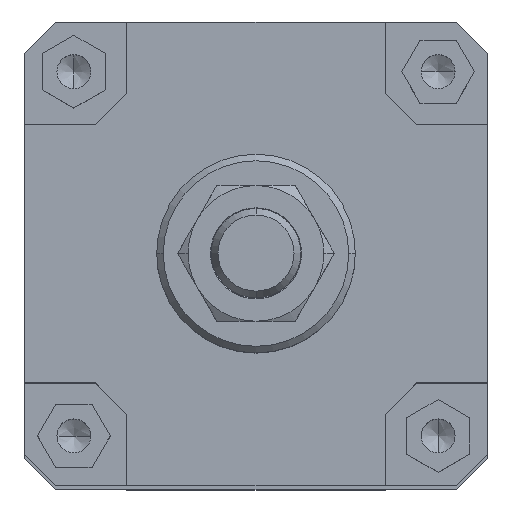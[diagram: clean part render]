
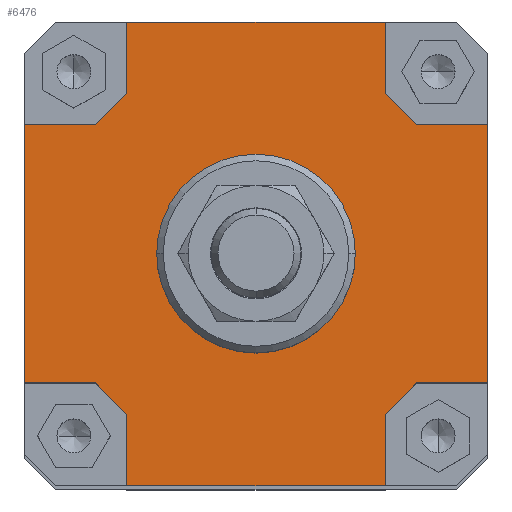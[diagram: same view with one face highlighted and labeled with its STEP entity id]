
A CAD part, top view. The second image highlights one B-rep face of the part: STEP entity #6476.
In plain terms, the highlighted planar face has unit normal (0, 0, 1).
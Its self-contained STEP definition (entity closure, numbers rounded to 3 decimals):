
#2320=CARTESIAN_POINT('',(-30.0,0.,380.0));
#2321=VERTEX_POINT('',#2320);
#2330=CARTESIAN_POINT('',(30.0,0.,380.0));
#2331=VERTEX_POINT('',#2330);
#2332=CARTESIAN_POINT('',(0.0,0.0,380.0));
#2333=DIRECTION('',(0.0,0.0,-1.0));
#2334=DIRECTION('',(-1.0,0.0,0.0));
#2335=AXIS2_PLACEMENT_3D('',#2332,#2333,#2334);
#2336=CIRCLE('',#2335,30.0);
#2337=EDGE_CURVE('',#2331,#2321,#2336,.T.);
#2557=CARTESIAN_POINT('',(0.0,0.0,380.0));
#2558=DIRECTION('',(0.0,0.0,-1.0));
#2559=DIRECTION('',(-1.0,0.0,0.0));
#2560=AXIS2_PLACEMENT_3D('',#2557,#2558,#2559);
#2561=CIRCLE('',#2560,30.0);
#2562=EDGE_CURVE('',#2321,#2331,#2561,.T.);
#2641=CARTESIAN_POINT('',(-39.,70.,380.0));
#2642=VERTEX_POINT('',#2641);
#2649=CARTESIAN_POINT('',(39.,70.,380.0));
#2650=VERTEX_POINT('',#2649);
#2651=CARTESIAN_POINT('',(-39.,70.,380.0));
#2652=DIRECTION('',(1.0,0.0,0.0));
#2653=VECTOR('',#2652,78.);
#2654=LINE('',#2651,#2653);
#2655=EDGE_CURVE('',#2642,#2650,#2654,.T.);
#3100=CARTESIAN_POINT('',(70.,39.,380.0));
#3101=VERTEX_POINT('',#3100);
#3108=CARTESIAN_POINT('',(70.,-39.0,380.0));
#3109=VERTEX_POINT('',#3108);
#3110=CARTESIAN_POINT('',(70.,39.,380.0));
#3111=DIRECTION('',(0.0,-1.0,0.0));
#3112=VECTOR('',#3111,78.);
#3113=LINE('',#3110,#3112);
#3114=EDGE_CURVE('',#3101,#3109,#3113,.T.);
#3181=CARTESIAN_POINT('',(-39.,-48.5,380.0));
#3182=VERTEX_POINT('',#3181);
#3189=CARTESIAN_POINT('',(-48.5,-39.,380.0));
#3190=VERTEX_POINT('',#3189);
#3191=CARTESIAN_POINT('',(-39.,-48.5,380.0));
#3192=DIRECTION('',(-0.707,0.707,0.0));
#3193=VECTOR('',#3192,13.435);
#3194=LINE('',#3191,#3193);
#3195=EDGE_CURVE('',#3182,#3190,#3194,.T.);
#3309=CARTESIAN_POINT('',(-70.,-39.,380.0));
#3310=VERTEX_POINT('',#3309);
#3311=CARTESIAN_POINT('',(-70.,-39.,380.0));
#3312=DIRECTION('',(1.0,0.0,0.0));
#3313=VECTOR('',#3312,21.5);
#3314=LINE('',#3311,#3313);
#3315=EDGE_CURVE('',#3310,#3190,#3314,.T.);
#3342=CARTESIAN_POINT('',(48.5,-39.,380.0));
#3343=VERTEX_POINT('',#3342);
#3350=CARTESIAN_POINT('',(39.,-48.5,380.0));
#3351=VERTEX_POINT('',#3350);
#3352=CARTESIAN_POINT('',(48.5,-39.,380.0));
#3353=DIRECTION('',(-0.707,-0.707,0.0));
#3354=VECTOR('',#3353,13.435);
#3355=LINE('',#3352,#3354);
#3356=EDGE_CURVE('',#3343,#3351,#3355,.T.);
#3454=CARTESIAN_POINT('',(39.,-70.,380.0));
#3455=VERTEX_POINT('',#3454);
#3456=CARTESIAN_POINT('',(39.,-70.,380.0));
#3457=DIRECTION('',(0.0,1.0,0.0));
#3458=VECTOR('',#3457,21.5);
#3459=LINE('',#3456,#3458);
#3460=EDGE_CURVE('',#3455,#3351,#3459,.T.);
#3487=CARTESIAN_POINT('',(39.,48.5,380.0));
#3488=VERTEX_POINT('',#3487);
#3495=CARTESIAN_POINT('',(48.5,39.,380.0));
#3496=VERTEX_POINT('',#3495);
#3497=CARTESIAN_POINT('',(39.,48.5,380.0));
#3498=DIRECTION('',(0.707,-0.707,0.0));
#3499=VECTOR('',#3498,13.435);
#3500=LINE('',#3497,#3499);
#3501=EDGE_CURVE('',#3488,#3496,#3500,.T.);
#3592=CARTESIAN_POINT('',(70.,39.,380.0));
#3593=DIRECTION('',(-1.0,0.0,0.0));
#3594=VECTOR('',#3593,21.5);
#3595=LINE('',#3592,#3594);
#3596=EDGE_CURVE('',#3101,#3496,#3595,.T.);
#3609=CARTESIAN_POINT('',(-48.5,39.,380.0));
#3610=VERTEX_POINT('',#3609);
#3617=CARTESIAN_POINT('',(-39.,48.5,380.0));
#3618=VERTEX_POINT('',#3617);
#3619=CARTESIAN_POINT('',(-48.5,39.,380.0));
#3620=DIRECTION('',(0.707,0.707,0.0));
#3621=VECTOR('',#3620,13.435);
#3622=LINE('',#3619,#3621);
#3623=EDGE_CURVE('',#3610,#3618,#3622,.T.);
#3640=CARTESIAN_POINT('',(-39.,70.,380.0));
#3641=DIRECTION('',(0.0,-1.0,0.0));
#3642=VECTOR('',#3641,21.5);
#3643=LINE('',#3640,#3642);
#3644=EDGE_CURVE('',#2642,#3618,#3643,.T.);
#4674=CARTESIAN_POINT('',(-70.,39.0,380.0));
#4675=VERTEX_POINT('',#4674);
#4676=CARTESIAN_POINT('',(-70.,-39.,380.0));
#4677=DIRECTION('',(0.0,1.0,0.0));
#4678=VECTOR('',#4677,78.0);
#4679=LINE('',#4676,#4678);
#4680=EDGE_CURVE('',#3310,#4675,#4679,.T.);
#6070=CARTESIAN_POINT('',(-48.5,39.,380.0));
#6071=DIRECTION('',(-1.0,0.0,0.0));
#6072=VECTOR('',#6071,21.5);
#6073=LINE('',#6070,#6072);
#6074=EDGE_CURVE('',#3610,#4675,#6073,.T.);
#6231=CARTESIAN_POINT('',(39.,48.5,380.0));
#6232=DIRECTION('',(0.0,1.0,0.0));
#6233=VECTOR('',#6232,21.5);
#6234=LINE('',#6231,#6233);
#6235=EDGE_CURVE('',#3488,#2650,#6234,.T.);
#6392=CARTESIAN_POINT('',(48.5,-39.,380.0));
#6393=DIRECTION('',(1.0,0.0,0.0));
#6394=VECTOR('',#6393,21.5);
#6395=LINE('',#6392,#6394);
#6396=EDGE_CURVE('',#3343,#3109,#6395,.T.);
#6437=CARTESIAN_POINT('',(0.,0.,380.0));
#6438=DIRECTION('',(0.0,0.0,1.0));
#6439=DIRECTION('',(1.0,0.0,0.0));
#6440=AXIS2_PLACEMENT_3D('',#6437,#6438,#6439);
#6441=PLANE('',#6440);
#6442=ORIENTED_EDGE('',*,*,#3644,.T.);
#6443=ORIENTED_EDGE('',*,*,#3623,.F.);
#6444=ORIENTED_EDGE('',*,*,#6074,.T.);
#6445=ORIENTED_EDGE('',*,*,#4680,.F.);
#6446=ORIENTED_EDGE('',*,*,#3315,.T.);
#6447=ORIENTED_EDGE('',*,*,#3195,.F.);
#6448=CARTESIAN_POINT('',(-39.,-70.,380.0));
#6449=VERTEX_POINT('',#6448);
#6450=CARTESIAN_POINT('',(-39.,-48.5,380.0));
#6451=DIRECTION('',(0.0,-1.0,0.0));
#6452=VECTOR('',#6451,21.5);
#6453=LINE('',#6450,#6452);
#6454=EDGE_CURVE('',#3182,#6449,#6453,.T.);
#6455=ORIENTED_EDGE('',*,*,#6454,.T.);
#6456=CARTESIAN_POINT('',(39.,-70.,380.0));
#6457=DIRECTION('',(-1.0,0.0,0.0));
#6458=VECTOR('',#6457,78.);
#6459=LINE('',#6456,#6458);
#6460=EDGE_CURVE('',#3455,#6449,#6459,.T.);
#6461=ORIENTED_EDGE('',*,*,#6460,.F.);
#6462=ORIENTED_EDGE('',*,*,#3460,.T.);
#6463=ORIENTED_EDGE('',*,*,#3356,.F.);
#6464=ORIENTED_EDGE('',*,*,#6396,.T.);
#6465=ORIENTED_EDGE('',*,*,#3114,.F.);
#6466=ORIENTED_EDGE('',*,*,#3596,.T.);
#6467=ORIENTED_EDGE('',*,*,#3501,.F.);
#6468=ORIENTED_EDGE('',*,*,#6235,.T.);
#6469=ORIENTED_EDGE('',*,*,#2655,.F.);
#6470=EDGE_LOOP('',(#6442,#6443,#6444,#6445,#6446,#6447,#6455,#6461,#6462,#6463,#6464,#6465,#6466,#6467,#6468,#6469));
#6471=FACE_OUTER_BOUND('',#6470,.T.);
#6472=ORIENTED_EDGE('',*,*,#2337,.T.);
#6473=ORIENTED_EDGE('',*,*,#2562,.T.);
#6474=EDGE_LOOP('',(#6472,#6473));
#6475=FACE_BOUND('',#6474,.T.);
#6476=ADVANCED_FACE('',(#6471,#6475),#6441,.T.);
